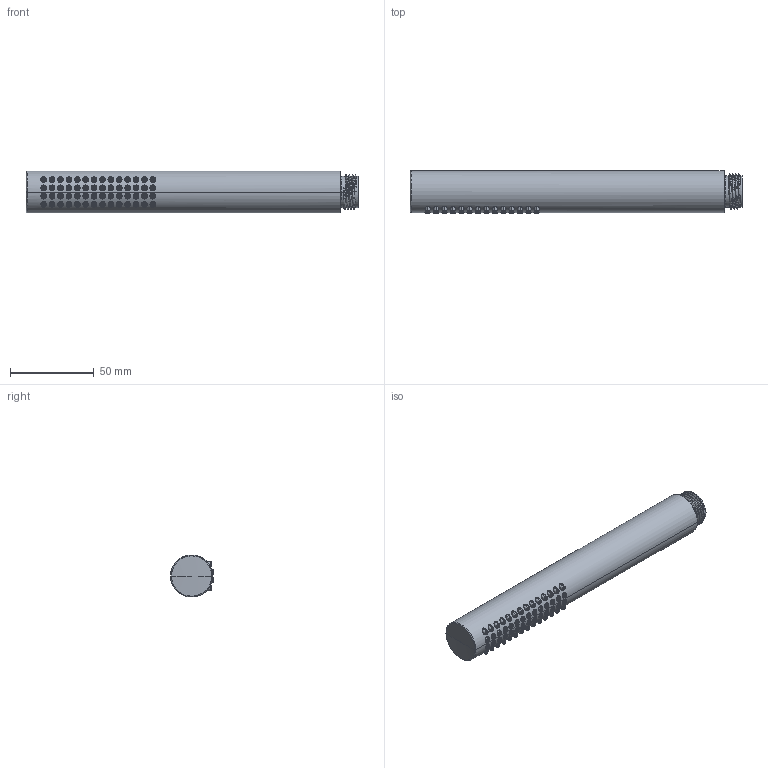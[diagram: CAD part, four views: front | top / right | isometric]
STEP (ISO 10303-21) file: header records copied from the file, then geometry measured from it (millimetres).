
FILE_DESCRIPTION((''),'2;1');
FILE_NAME('P74500','2020-02-13T11:41:11',('LF994'),(''),'CREO PARAMETRIC BY PTC INC, 2018500','CREO PARAMETRIC BY PTC INC, 2018500','');
FILE_SCHEMA(('CONFIG_CONTROL_DESIGN'));
Length unit declared in the file: millimetre
Products named in the file (1): P74500
Bounding box: 197.74 x 25.5 x 25 mm (x, y, z)
Volume: 39353.3 mm3; surface area: 55819.8 mm2
Topology: 1 solids, 1 shells, 1240 faces, 3512 edges, 2232 vertices
Faces by surface type: plane 391, cylinder 302, cone 253, bspline 149, torus 143, sphere 2
Entity records: 84563 total; most frequent: CARTESIAN_POINT 53561, ORIENTED_EDGE 7020, DIRECTION 5662, EDGE_CURVE 3510, AXIS2_PLACEMENT_3D 2261, VERTEX_POINT 2232, EDGE_LOOP 1578, FACE_OUTER_BOUND 1240
